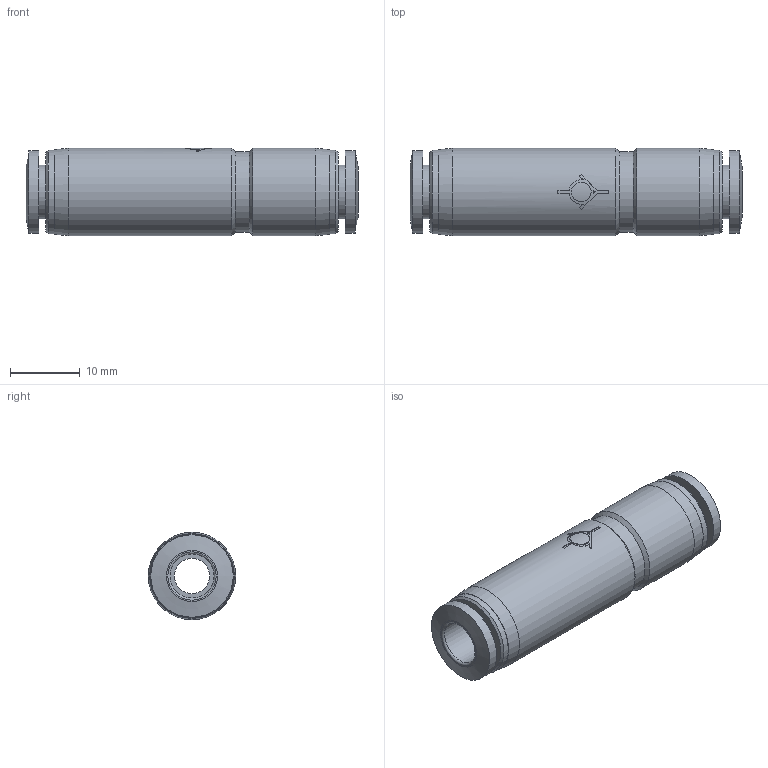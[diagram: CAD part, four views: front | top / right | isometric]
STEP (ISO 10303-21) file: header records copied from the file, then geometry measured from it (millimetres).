
FILE_DESCRIPTION((''),'2;1');
FILE_NAME('D:\INVENTOR\[New Inventor]\CDC Products 3D Ass''y\Check Valves\Metric\CVPU\CVPU06.stp','2009-02-16T09:13:03',('Microsoft'),(''),'Autodesk Inventor 2008','Autodesk Inventor 2008','');
FILE_SCHEMA(('AUTOMOTIVE_DESIGN { 1 0 10303 214 1 1 1 1 }'));
Length unit declared in the file: millimetre
Products named in the file (1): CVPU06
Bounding box: 47.5 x 12.5 x 12.5 mm (x, y, z)
Volume: 4184.5 mm3; surface area: 3108.6 mm2
Topology: 1 solids, 1 shells, 53 faces, 108 edges, 68 vertices
Faces by surface type: plane 24, cylinder 19, cone 8, torus 2
Full cylindrical faces by diameter (mm): 2.8 x1, 5.05 x1, 6.3 x2, 7.7 x2, 11.5 x1, 11.8 x2, 12 x2, 12.5 x2
Entity records: 1471 total; most frequent: CARTESIAN_POINT 381, DIRECTION 237, ORIENTED_EDGE 170, AXIS2_PLACEMENT_3D 106, EDGE_LOOP 89, EDGE_CURVE 85, VERTEX_POINT 68, FACE_OUTER_BOUND 53
